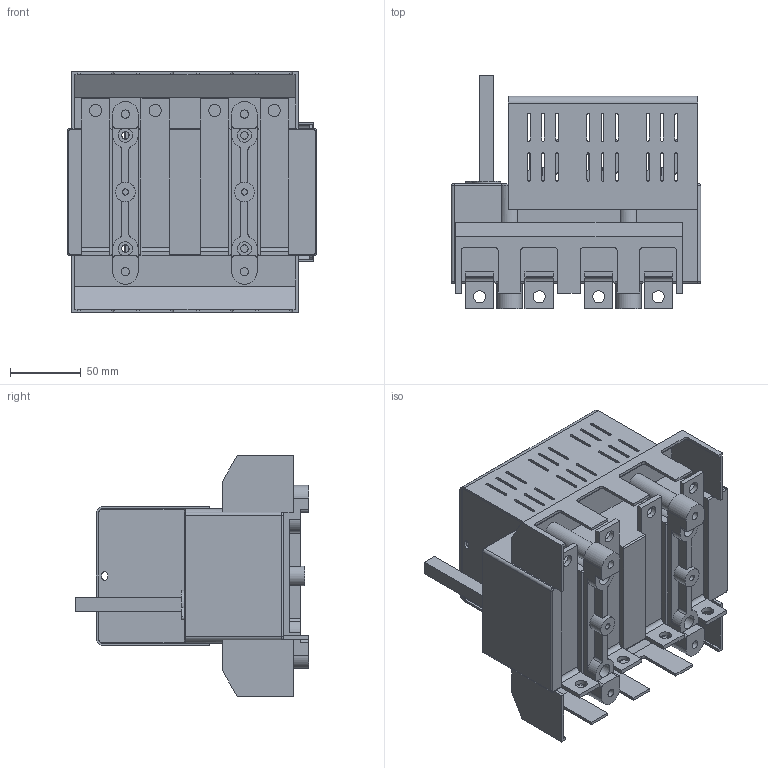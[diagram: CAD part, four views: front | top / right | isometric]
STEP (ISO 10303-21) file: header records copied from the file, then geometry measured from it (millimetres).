
FILE_DESCRIPTION(/* description */ (''),/* implementation_level */ '2;1');
FILE_NAME(/* name */ 'RAB 00 P3 NB z oslona zaciskow.stp',/* time_stamp */ '2021-08-19T11:26:50+02:00',/* author */ (''),/* organization */ (''),/* preprocessor_version */ 'ST-DEVELOPER v18.1',/* originating_system */ 'SIEMENS PLM Software NX 1965',/* authorisation */ '');
FILE_SCHEMA (('AUTOMOTIVE_DESIGN { 1 0 10303 214 3 1 1 1 }'));
Length unit declared in the file: millimetre
Products named in the file (1): RAB 00 P3 NB z oslona zaciskow_stp
Bounding box: 176 x 165 x 169.8 mm (x, y, z)
Volume: 1307739.8 mm3; surface area: 284157.3 mm2
Topology: 1 solids, 1 shells, 958 faces, 2772 edges, 1814 vertices
Faces by surface type: plane 608, cylinder 338, torus 7, bspline 5
Full cylindrical faces by diameter (mm): 2.7 x4, 4.3 x2, 5 x6, 5.3 x4, 5.8 x4, 8.5 x8, 10 x12, 13 x4, 14 x2
Entity records: 31365 total; most frequent: CARTESIAN_POINT 5611, ORIENTED_EDGE 5380, DIRECTION 5286, EDGE_CURVE 2690, LINE 1952, VECTOR 1952, VERTEX_POINT 1778, AXIS2_PLACEMENT_3D 1667
